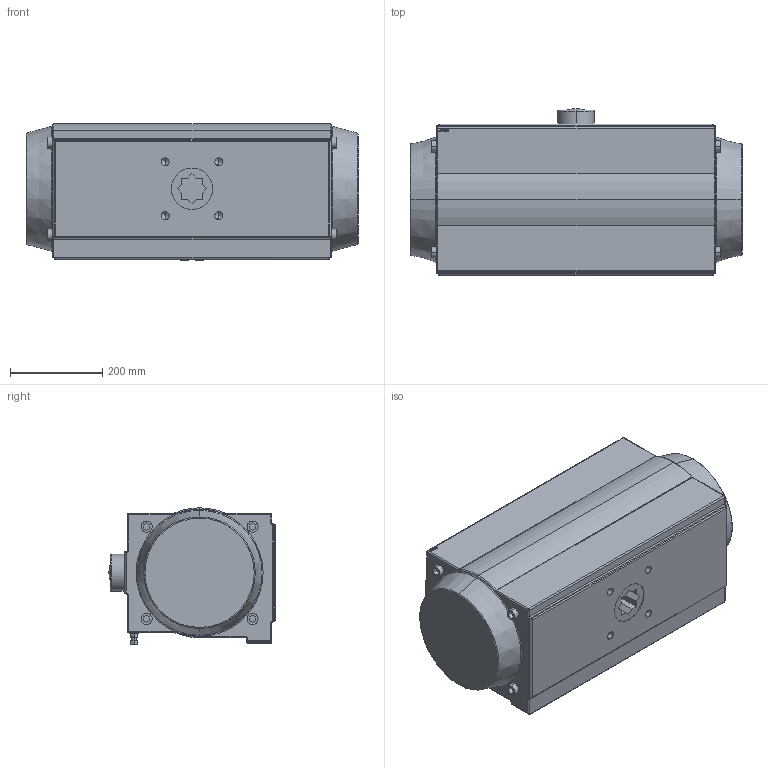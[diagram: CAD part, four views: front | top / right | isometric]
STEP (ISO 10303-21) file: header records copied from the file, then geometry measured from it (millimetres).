
FILE_DESCRIPTION (( 'STEP AP203' ), '1' );
FILE_NAME ('AP270.STEP', '2020-04-08T11:55:41', ( '' ), ( '' ), 'SwSTEP 2.0', 'SolidWorks 2017', '' );
FILE_SCHEMA (( 'CONFIG_CONTROL_DESIGN' ));
Length unit declared in the file: millimetre
Products named in the file (1): AP270
Bounding box: 721 x 361 x 296.04 mm (x, y, z)
Volume: 58752250 mm3; surface area: 1003803 mm2
Topology: 1 solids, 1 shells, 485 faces, 1159 edges, 705 vertices
Faces by surface type: plane 205, cylinder 118, bspline 62, cone 60, torus 38, sphere 2
Entity records: 16750 total; most frequent: CARTESIAN_POINT 5952, ORIENTED_EDGE 2262, DIRECTION 2131, EDGE_CURVE 1131, AXIS2_PLACEMENT_3D 748, VERTEX_POINT 705, VECTOR 635, LINE 635
